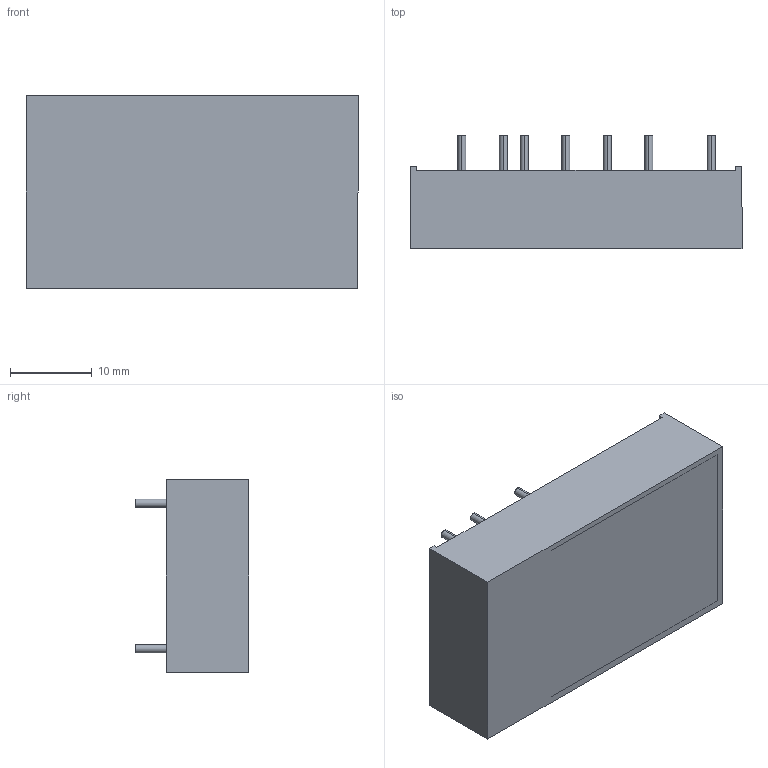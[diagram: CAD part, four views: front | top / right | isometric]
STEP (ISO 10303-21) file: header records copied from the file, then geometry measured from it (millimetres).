
FILE_DESCRIPTION (( 'STEP AP214' ), '1' );
FILE_NAME ('ALD-D組合圖-1071212.STEP', '2018-12-12T04:00:14', ( '' ), ( '' ), 'SwSTEP 2.0', 'SolidWorks 2017', '' );
FILE_SCHEMA (( 'AUTOMOTIVE_DESIGN' ));
Length unit declared in the file: millimetre
Products named in the file (3): CASE示意圖(K-G002-00-M)G511A510012-1071212; ALD-D 內部示意圖-1071212; ALD-D組合圖-1071212
Assembly tree (2 placements, depth 2):
  ALD-D組合圖-1071212
    CASE示意圖(K-G002-00-M)G511A510012-1071212
    ALD-D 內部示意圖-1071212
Bounding box: 40.6 x 13.9 x 23.5 mm (x, y, z)
Volume: 9803 mm3; surface area: 7232.7 mm2
Topology: 2 solids, 2 shells, 44 faces, 96 edges, 64 vertices
Faces by surface type: plane 28, cylinder 16
Entity records: 1322 total; most frequent: DIRECTION 226, CARTESIAN_POINT 209, ORIENTED_EDGE 192, EDGE_CURVE 96, AXIS2_PLACEMENT_3D 81, VERTEX_POINT 64, LINE 64, VECTOR 64
